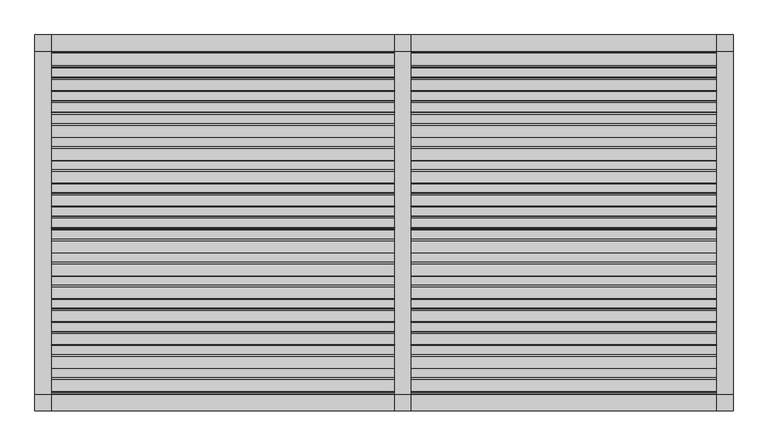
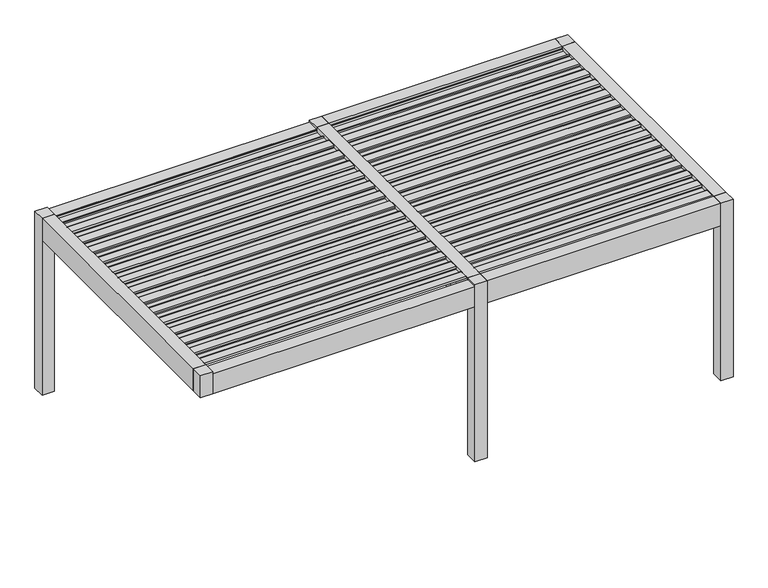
"""IFC4 building model written with IfcOpenShell, lengths in millimetres: proxy geometry, Renson_Amani_Patio_Cover : Renson_Amani_Patio_Cover."""

import ifcopenshell
import ifcopenshell.guid

model = None  # the IFC model being written
_history = None  # IfcOwnerHistory: only IFC2X3 demands one
_inside = {}  # id of a spatial element -> (the spatial element, [elements in it])
_under = {}  # id of a project, library or spatial element -> (it, [spatial elements below it])
_declared = {}  # id of a project -> (the project, [libraries it declares])
_typed = {}  # id of a type object -> (the type object, [elements of that type])
_made_of = {}  # id of a material, layer set ... -> (it, [elements and type objects made of it])


def new_model(schema):
    """Start an empty IFC model of exactly this schema.

    Asked for "IFC4X3", IfcOpenShell would pick the latest addendum, in which some entities
    have other attributes; the version numbers below select the first issue.
    IFC2X3 requires an IfcOwnerHistory on every rooted entity: one is made here for all.
    """
    global model, _history
    if schema == "IFC4X3":
        model = ifcopenshell.file(schema_version=(4, 3, 0, 0))
    else:
        model = ifcopenshell.file(schema=schema)
    _inside.clear()
    _under.clear()
    _declared.clear()
    _typed.clear()
    _made_of.clear()
    _history = None
    if model.schema == "IFC2X3":
        org = make("IfcOrganization", Name="unknown")
        user = make(
            "IfcPersonAndOrganization",
            ThePerson=make("IfcPerson", FamilyName="unknown"),
            TheOrganization=org,
        )
        app = make(
            "IfcApplication",
            ApplicationDeveloper=org,
            Version="unknown",
            ApplicationFullName="unknown",
            ApplicationIdentifier="unknown",
        )
        _history = make(
            "IfcOwnerHistory",
            OwningUser=user,
            OwningApplication=app,
            ChangeAction="ADDED",
            CreationDate=0,
        )
    return model


def make(cls, **values):
    """One entity of the class cls with the attributes given. An attribute that is None is left unset."""
    return model.create_entity(
        cls, **{name: value for name, value in values.items() if value is not None}
    )


def rooted(cls, **values):
    """An entity with a GlobalId (a new one), such as an element, a storey or a relation."""
    return make(cls, GlobalId=ifcopenshell.guid.new(), OwnerHistory=_history, **values)


def si_unit(unit_type, name, prefix=None):
    """IfcSIUnit, for example si_unit("LENGTHUNIT", "METRE", prefix="MILLI")."""
    return make("IfcSIUnit", UnitType=unit_type, Prefix=prefix, Name=name)


def assignment(units):
    """IfcUnitAssignment: the units of a project."""
    return None if units is None else make("IfcUnitAssignment", Units=units)


def point(xyz):
    """IfcCartesianPoint."""
    return None if xyz is None else make("IfcCartesianPoint", Coordinates=xyz)


def direction(xyz):
    """IfcDirection."""
    return None if xyz is None else make("IfcDirection", DirectionRatios=xyz)


def frame(location, z_axis=None, x_axis=None):
    """IfcAxis2Placement3D, a coordinate frame: its origin and axes. An axis left out is left unset."""
    return make(
        "IfcAxis2Placement3D",
        Location=point(location),
        Axis=direction(z_axis),
        RefDirection=direction(x_axis),
    )


def frame_2d(location, x_axis=None):
    """IfcAxis2Placement2D, a coordinate frame in the plane: its origin and x axis."""
    return make(
        "IfcAxis2Placement2D", Location=point(location), RefDirection=direction(x_axis)
    )


def origin():
    """The frame at (0, 0, 0) with its axes left unset."""
    return frame((0.0, 0.0, 0.0))


def origin_with_axes():
    """The frame at (0, 0, 0) with the z axis (0, 0, 1) and the x axis (1, 0, 0) written out."""
    return frame((0.0, 0.0, 0.0), z_axis=(0.0, 0.0, 1.0), x_axis=(1.0, 0.0, 0.0))


def place(relative_to, where):
    """IfcLocalPlacement: puts the frame where relative to a parent placement (None: the world)."""
    return make(
        "IfcLocalPlacement", PlacementRelTo=relative_to, RelativePlacement=where
    )


def context(
    kind, dimensions, precision=None, world=None, true_north=None, identifier=None
):
    """IfcGeometricRepresentationContext, for example the 3D "Model" context."""
    return make(
        "IfcGeometricRepresentationContext",
        ContextIdentifier=identifier,
        ContextType=kind,
        CoordinateSpaceDimension=dimensions,
        Precision=precision,
        WorldCoordinateSystem=world,
        TrueNorth=true_north,
    )


def project(units=None, contexts=None):
    """IfcProject with its units and contexts."""
    return rooted(
        "IfcProject",
        Name="project",
        RepresentationContexts=contexts,
        UnitsInContext=assignment(units),
    )


def spatial(cls, under=None, at=None, **own):
    """A site, building, storey or space (cls), placed at a placement, below another one or the project."""
    s = rooted(cls, ObjectPlacement=at, **own)
    if under is not None:
        _under.setdefault(under.id(), (under, []))[1].append(s)
    return s


def polyline(points):
    """IfcPolyline through the points."""
    return make("IfcPolyline", Points=[point(p) for p in points])


def circle_curve(where, radius):
    """IfcCircle in the frame where."""
    return make("IfcCircle", Position=where, Radius=radius)


def trimmed(basis, trim1, trim2, sense, master):
    """IfcTrimmedCurve: the piece of a basis curve between two trims."""
    return make(
        "IfcTrimmedCurve",
        BasisCurve=basis,
        Trim1=trim1,
        Trim2=trim2,
        SenseAgreement=sense,
        MasterRepresentation=master,
    )


def segment(curve, same_sense, transition):
    """IfcCompositeCurveSegment."""
    return make(
        "IfcCompositeCurveSegment",
        Transition=transition,
        SameSense=same_sense,
        ParentCurve=curve,
    )


def composite_curve(segments, self_intersect=None):
    """IfcCompositeCurve: segments joined end to end."""
    return make("IfcCompositeCurve", Segments=segments, SelfIntersect=self_intersect)


def outline(outer, holes=None, kind="AREA"):
    """IfcArbitraryClosedProfileDef: a profile drawn as a closed curve; with holes, ...WithVoids."""
    if holes is None:
        return make("IfcArbitraryClosedProfileDef", ProfileType=kind, OuterCurve=outer)
    return make(
        "IfcArbitraryProfileDefWithVoids",
        ProfileType=kind,
        OuterCurve=outer,
        InnerCurves=holes,
    )


def extrude(swept, where, along, depth):
    """IfcExtrudedAreaSolid: the profile swept, set in the frame where, extruded along a direction by depth."""
    return make(
        "IfcExtrudedAreaSolid",
        SweptArea=swept,
        Position=where,
        ExtrudedDirection=direction(along),
        Depth=depth,
    )


def shape(context_of_items, identifier, shape_type, items):
    """IfcShapeRepresentation: the items that make up one representation, for example the "Body"."""
    return make(
        "IfcShapeRepresentation",
        ContextOfItems=context_of_items,
        RepresentationIdentifier=identifier,
        RepresentationType=shape_type,
        Items=items,
    )


def source(mapping_origin, context_of_items, identifier, shape_type, items):
    """IfcRepresentationMap: a shape defined once, which mapped items show again and again."""
    return make(
        "IfcRepresentationMap",
        MappingOrigin=mapping_origin,
        MappedRepresentation=shape(context_of_items, identifier, shape_type, items),
    )


def transform(
    local_origin,
    x_axis=None,
    y_axis=None,
    z_axis=None,
    scale=None,
    scale2=None,
    scale3=None,
    uniform=True,
):
    """IfcCartesianTransformationOperator3D, or its non-uniform kind. x_axis, y_axis, z_axis: its Axis1, 2, 3."""
    if uniform:
        return make(
            "IfcCartesianTransformationOperator3D",
            Axis1=direction(x_axis),
            Axis2=direction(y_axis),
            LocalOrigin=point(local_origin),
            Scale=scale,
            Axis3=direction(z_axis),
        )
    return make(
        "IfcCartesianTransformationOperator3DnonUniform",
        Axis1=direction(x_axis),
        Axis2=direction(y_axis),
        LocalOrigin=point(local_origin),
        Scale=scale,
        Axis3=direction(z_axis),
        Scale2=scale2,
        Scale3=scale3,
    )


def mapped(mapping_source, mapping_target):
    """IfcMappedItem: shows the shape of a source again, moved by a transform."""
    return make(
        "IfcMappedItem", MappingSource=mapping_source, MappingTarget=mapping_target
    )


def made_of(thing, what):
    """Note that an element or type object is made of a material, layer set ...; save() writes the relation."""
    if what is not None:
        _made_of.setdefault(what.id(), (what, []))[1].append(thing)
    return thing


def element(
    cls,
    number,
    at=None,
    inside=None,
    cuts=None,
    type_object=None,
    material=None,
    context=None,
    identifier="Body",
    shape_type=None,
    held_by="IfcProductDefinitionShape",
    body=None,
    shapes=None,
    **own,
):
    """One element of the class cls, such as IfcWall. Its Tag is "e" and its number.

    at: its placement. inside: the storey or other place that contains it. cuts: it is an
    opening in that element (IfcRelVoidsElement). A single representation is given by context,
    identifier, shape_type and body (its items); several are given by shapes. held_by: the class
    of the entity that holds the representations. save() writes the other relations.
    """
    e = rooted(cls, Tag="e%d" % number, ObjectPlacement=at, **own)
    if body is not None:
        shapes = [shape(context, identifier, shape_type, body)]
    if shapes is not None:
        e.Representation = make(held_by, Representations=shapes)
    if inside is not None:
        _inside.setdefault(inside.id(), (inside, []))[1].append(e)
    if cuts is not None:
        rooted(
            "IfcRelVoidsElement", RelatingBuildingElement=cuts, RelatedOpeningElement=e
        )
    if type_object is not None:
        _typed.setdefault(type_object.id(), (type_object, []))[1].append(e)
    return made_of(e, material)


def aggregate(whole, parts):
    """IfcRelAggregates: a whole, such as a stair, and the parts it consists of."""
    return rooted("IfcRelAggregates", RelatingObject=whole, RelatedObjects=parts)


def save(model, path):
    """Write the relations noted so far, then the file.

    IfcRelAggregates (storeys below a building ...), IfcRelContainedInSpatialStructure (elements
    in a storey), IfcRelDefinesByType, IfcRelAssociatesMaterial and IfcRelDeclares: one each for
    every whole, place, type object, material and project.
    """
    for whole, parts in _under.values():
        aggregate(whole, parts)
    for where, things in _inside.values():
        rooted(
            "IfcRelContainedInSpatialStructure",
            RelatedElements=things,
            RelatingStructure=where,
        )
    for kind, things in _typed.values():
        rooted("IfcRelDefinesByType", RelatedObjects=things, RelatingType=kind)
    for what, things in _made_of.values():
        rooted("IfcRelAssociatesMaterial", RelatedObjects=things, RelatingMaterial=what)
    for by, libraries in _declared.values():
        rooted("IfcRelDeclares", RelatingContext=by, RelatedDefinitions=libraries)
    model.write(path)


def generic_models_32e5b0d9(model_context):
    return source(origin(), model_context, "Body", "SweptSolid", [
        extrude(outline(composite_curve([segment(polyline([(-1323.7313417, 2233.35), (-1326.1514513, 2261.01198), (-1354.9867018, 2262.3970364), (-1351.5493707, 2281.8911096), (-1241.5522559, 2276.6075693)]), True, "CONTINUOUS"), segment(trimmed(circle_curve(frame_2d((-1242.2719278, 2261.6248435)), 15.0), [point((-1241.5522559, 2276.6075693))], [point((-1227.4998115, 2264.2295662))], False, "CARTESIAN"), True, "CONTINUOUS"), segment(polyline([(-1227.4998115, 2264.2295662), (-1224.1091202, 2245.0), (-1136.3733441, 2245.0), (-1133.3618867, 2262.0788237), (-1118.0849163, 2261.3450182), (-1115.6356695, 2233.35), (-1323.7313417, 2233.35)]), True, "CONTINUOUS")], self_intersect=False)), frame((1750.0, 0.0, 0.0), z_axis=(1.0, 0.0, 0.0), x_axis=(0.0, 1.0, 0.0)), (0.0, 0.0, 1.0), 2850.0),
        extrude(outline(composite_curve([segment(polyline([(-1108.7180435, 2233.35), (-1111.1381532, 2261.01198), (-1139.9734036, 2262.3970364), (-1136.5360725, 2281.8911096), (-1026.5389577, 2276.6075693)]), True, "CONTINUOUS"), segment(trimmed(circle_curve(frame_2d((-1027.2586296, 2261.6248435)), 15.0), [point((-1026.5389577, 2276.6075693))], [point((-1012.4865133, 2264.2295662))], False, "CARTESIAN"), True, "CONTINUOUS"), segment(polyline([(-1012.4865133, 2264.2295662), (-1009.095822, 2245.0), (-921.360046, 2245.0), (-918.3485885, 2262.0788237), (-903.0716181, 2261.3450182), (-900.6223713, 2233.35), (-1108.7180435, 2233.35)]), True, "CONTINUOUS")], self_intersect=False)), frame((1750.0, 0.0, 0.0), z_axis=(1.0, 0.0, 0.0), x_axis=(0.0, 1.0, 0.0)), (0.0, 0.0, 1.0), 2850.0),
        extrude(outline(composite_curve([segment(polyline([(-893.7047453, 2233.35), (-896.124855, 2261.01198), (-924.9601054, 2262.3970364), (-921.5227743, 2281.8911096), (-811.5256595, 2276.6075693)]), True, "CONTINUOUS"), segment(trimmed(circle_curve(frame_2d((-812.2453314, 2261.6248435)), 15.0), [point((-811.5256595, 2276.6075693))], [point((-797.4732151, 2264.2295662))], False, "CARTESIAN"), True, "CONTINUOUS"), segment(polyline([(-797.4732151, 2264.2295662), (-794.0825238, 2245.0), (-706.3467478, 2245.0), (-703.3352903, 2262.0788237), (-688.0583199, 2261.3450182), (-685.6090731, 2233.35), (-893.7047453, 2233.35)]), True, "CONTINUOUS")], self_intersect=False)), frame((1750.0, 0.0, 0.0), z_axis=(1.0, 0.0, 0.0), x_axis=(0.0, 1.0, 0.0)), (0.0, 0.0, 1.0), 2850.0),
        extrude(outline(composite_curve([segment(polyline([(-678.6914471, 2233.35), (-681.1115568, 2261.01198), (-709.9468072, 2262.3970364), (-706.5094762, 2281.8911096), (-596.5123613, 2276.6075693)]), True, "CONTINUOUS"), segment(trimmed(circle_curve(frame_2d((-597.2320332, 2261.6248435)), 15.0), [point((-596.5123613, 2276.6075693))], [point((-582.4599169, 2264.2295662))], False, "CARTESIAN"), True, "CONTINUOUS"), segment(polyline([(-582.4599169, 2264.2295662), (-579.0692256, 2245.0), (-491.3334496, 2245.0), (-488.3219922, 2262.0788237), (-473.0450217, 2261.3450182), (-470.595775, 2233.35), (-678.6914471, 2233.35)]), True, "CONTINUOUS")], self_intersect=False)), frame((1750.0, 0.0, 0.0), z_axis=(1.0, 0.0, 0.0), x_axis=(0.0, 1.0, 0.0)), (0.0, 0.0, 1.0), 2850.0),
        extrude(outline(composite_curve([segment(polyline([(-463.6781489, 2233.35), (-466.0982586, 2261.01198), (-494.933509, 2262.3970364), (-491.496178, 2281.8911096), (-381.4990631, 2276.6075693)]), True, "CONTINUOUS"), segment(trimmed(circle_curve(frame_2d((-382.218735, 2261.6248435)), 15.0), [point((-381.4990631, 2276.6075693))], [point((-367.4466187, 2264.2295662))], False, "CARTESIAN"), True, "CONTINUOUS"), segment(polyline([(-367.4466187, 2264.2295662), (-364.0559274, 2245.0), (-276.3201514, 2245.0), (-273.308694, 2262.0788237), (-258.0317235, 2261.3450182), (-255.5824768, 2233.35), (-463.6781489, 2233.35)]), True, "CONTINUOUS")], self_intersect=False)), frame((1750.0, 0.0, 0.0), z_axis=(1.0, 0.0, 0.0), x_axis=(0.0, 1.0, 0.0)), (0.0, 0.0, 1.0), 2850.0),
        extrude(outline(composite_curve([segment(polyline([(-248.6648507, 2233.35), (-251.0849604, 2261.01198), (-279.9202108, 2262.3970364), (-276.4828798, 2281.8911096), (-166.4857649, 2276.6075693)]), True, "CONTINUOUS"), segment(trimmed(circle_curve(frame_2d((-167.2054368, 2261.6248435)), 15.0), [point((-166.4857649, 2276.6075693))], [point((-152.4333206, 2264.2295662))], False, "CARTESIAN"), True, "CONTINUOUS"), segment(polyline([(-152.4333206, 2264.2295662), (-149.0426292, 2245.0), (-61.3068532, 2245.0), (-58.2953958, 2262.0788237), (-43.0184253, 2261.3450182), (-40.5691786, 2233.35), (-248.6648507, 2233.35)]), True, "CONTINUOUS")], self_intersect=False)), frame((1750.0, 0.0, 0.0), z_axis=(1.0, 0.0, 0.0), x_axis=(0.0, 1.0, 0.0)), (0.0, 0.0, 1.0), 2850.0),
        extrude(outline(composite_curve([segment(polyline([(-33.6515525, 2233.35), (-36.0716622, 2261.01198), (-64.9069127, 2262.3970364), (-61.4695816, 2281.8911096), (48.5275333, 2276.6075693)]), True, "CONTINUOUS"), segment(trimmed(circle_curve(frame_2d((47.8078613, 2261.6248435)), 15.0), [point((48.5275333, 2276.6075693))], [point((62.5799776, 2264.2295662))], False, "CARTESIAN"), True, "CONTINUOUS"), segment(polyline([(62.5799776, 2264.2295662), (65.970669, 2245.0), (153.706445, 2245.0), (156.7179024, 2262.0788237), (171.9948729, 2261.3450182), (174.4441196, 2233.35), (-33.6515525, 2233.35)]), True, "CONTINUOUS")], self_intersect=False)), frame((1750.0, 0.0, 0.0), z_axis=(1.0, 0.0, 0.0), x_axis=(0.0, 1.0, 0.0)), (0.0, 0.0, 1.0), 2850.0),
        extrude(outline(composite_curve([segment(polyline([(181.3617457, 2233.35), (178.941636, 2261.01198), (150.1063855, 2262.3970364), (153.5437166, 2281.8911096), (263.5408315, 2276.6075693)]), True, "CONTINUOUS"), segment(trimmed(circle_curve(frame_2d((262.8211595, 2261.6248435)), 15.0), [point((263.5408315, 2276.6075693))], [point((277.5932758, 2264.2295662))], False, "CARTESIAN"), True, "CONTINUOUS"), segment(polyline([(277.5932758, 2264.2295662), (280.9839672, 2245.0), (368.7197432, 2245.0), (371.7312006, 2262.0788237), (387.0081711, 2261.3450182), (389.4574178, 2233.35), (181.3617457, 2233.35)]), True, "CONTINUOUS")], self_intersect=False)), frame((1750.0, 0.0, 0.0), z_axis=(1.0, 0.0, 0.0), x_axis=(0.0, 1.0, 0.0)), (0.0, 0.0, 1.0), 2850.0),
        extrude(outline(composite_curve([segment(polyline([(396.3750439, 2233.35), (393.9549342, 2261.01198), (365.1196837, 2262.3970364), (368.5570148, 2281.8911096), (478.5541297, 2276.6075693)]), True, "CONTINUOUS"), segment(trimmed(circle_curve(frame_2d((477.8344577, 2261.6248435)), 15.0), [point((478.5541297, 2276.6075693))], [point((492.606574, 2264.2295662))], False, "CARTESIAN"), True, "CONTINUOUS"), segment(polyline([(492.606574, 2264.2295662), (495.9972654, 2245.0), (583.7330414, 2245.0), (586.7444988, 2262.0788237), (602.0214693, 2261.3450182), (604.470716, 2233.35), (396.3750439, 2233.35)]), True, "CONTINUOUS")], self_intersect=False)), frame((1750.0, 0.0, 0.0), z_axis=(1.0, 0.0, 0.0), x_axis=(0.0, 1.0, 0.0)), (0.0, 0.0, 1.0), 2850.0),
        extrude(outline(composite_curve([segment(polyline([(611.388342, 2233.35), (608.9682324, 2261.01198), (580.1329819, 2262.3970364), (583.570313, 2281.8911096), (693.5674279, 2276.6075693)]), True, "CONTINUOUS"), segment(trimmed(circle_curve(frame_2d((692.8477559, 2261.6248435)), 15.0), [point((693.5674279, 2276.6075693))], [point((707.6198722, 2264.2295662))], False, "CARTESIAN"), True, "CONTINUOUS"), segment(polyline([(707.6198722, 2264.2295662), (711.0105636, 2245.0), (798.7463396, 2245.0), (801.757797, 2262.0788237), (817.0347675, 2261.3450182), (819.4840142, 2233.35), (611.388342, 2233.35)]), True, "CONTINUOUS")], self_intersect=False)), frame((1750.0, 0.0, 0.0), z_axis=(1.0, 0.0, 0.0), x_axis=(0.0, 1.0, 0.0)), (0.0, 0.0, 1.0), 2850.0),
        extrude(outline(composite_curve([segment(polyline([(826.4016402, 2233.35), (823.9815306, 2261.01198), (795.1462801, 2262.3970364), (798.5836112, 2281.8911096), (908.580726, 2276.6075693)]), True, "CONTINUOUS"), segment(trimmed(circle_curve(frame_2d((907.8610541, 2261.6248435)), 15.0), [point((908.580726, 2276.6075693))], [point((922.6331704, 2264.2295662))], False, "CARTESIAN"), True, "CONTINUOUS"), segment(polyline([(922.6331704, 2264.2295662), (926.0238618, 2245.0), (1013.7596378, 2245.0), (1016.7710952, 2262.0788237), (1032.0480657, 2261.3450182), (1034.4973124, 2233.35), (826.4016402, 2233.35)]), True, "CONTINUOUS")], self_intersect=False)), frame((1750.0, 0.0, 0.0), z_axis=(1.0, 0.0, 0.0), x_axis=(0.0, 1.0, 0.0)), (0.0, 0.0, 1.0), 2850.0),
        extrude(outline(composite_curve([segment(polyline([(1041.4149384, 2233.35), (1038.9948288, 2261.01198), (1010.1595783, 2262.3970364), (1013.5969094, 2281.8911096), (1123.5940242, 2276.6075693)]), True, "CONTINUOUS"), segment(trimmed(circle_curve(frame_2d((1122.8743523, 2261.6248435)), 15.0), [point((1123.5940242, 2276.6075693))], [point((1137.6464686, 2264.2295662))], False, "CARTESIAN"), True, "CONTINUOUS"), segment(polyline([(1137.6464686, 2264.2295662), (1141.0371599, 2245.0), (1228.772936, 2245.0), (1231.7843934, 2262.0788237), (1247.0613639, 2261.3450182), (1249.5106106, 2233.35), (1041.4149384, 2233.35)]), True, "CONTINUOUS")], self_intersect=False)), frame((1750.0, 0.0, 0.0), z_axis=(1.0, 0.0, 0.0), x_axis=(0.0, 1.0, 0.0)), (0.0, 0.0, 1.0), 2850.0),
        extrude(outline(composite_curve([segment(polyline([(-1538.7446399, 2233.35), (-1541.1647495, 2261.01198), (-1570.0, 2262.3970364), (-1566.5626689, 2281.8911096), (-1456.5655541, 2276.6075693)]), True, "CONTINUOUS"), segment(trimmed(circle_curve(frame_2d((-1457.285226, 2261.6248435)), 15.0), [point((-1456.5655541, 2276.6075693))], [point((-1442.5131097, 2264.2295662))], False, "CARTESIAN"), True, "CONTINUOUS"), segment(polyline([(-1442.5131097, 2264.2295662), (-1439.1224184, 2245.0), (-1351.3866423, 2245.0), (-1348.3751849, 2262.0788237), (-1333.0982144, 2261.3450182), (-1330.6489677, 2233.35), (-1538.7446399, 2233.35)]), True, "CONTINUOUS")], self_intersect=False)), frame((1750.0, 0.0, 0.0), z_axis=(1.0, 0.0, 0.0), x_axis=(0.0, 1.0, 0.0)), (0.0, 0.0, 1.0), 2850.0),
        extrude(outline(composite_curve([segment(polyline([(1256.4282366, 2233.35), (1254.008127, 2261.01198), (1225.1728765, 2262.3970364), (1228.6102076, 2281.8911096), (1338.6073224, 2276.6075693)]), True, "CONTINUOUS"), segment(trimmed(circle_curve(frame_2d((1337.8876505, 2261.6248435)), 15.0), [point((1338.6073224, 2276.6075693))], [point((1352.6597668, 2264.2295662))], False, "CARTESIAN"), True, "CONTINUOUS"), segment(polyline([(1352.6597668, 2264.2295662), (1356.0504581, 2245.0), (1443.7862342, 2245.0), (1446.7976916, 2262.0788237), (1462.0746621, 2261.3450182), (1464.5239088, 2233.35), (1256.4282366, 2233.35)]), True, "CONTINUOUS")], self_intersect=False)), frame((1750.0, 0.0, 0.0), z_axis=(1.0, 0.0, 0.0), x_axis=(0.0, 1.0, 0.0)), (0.0, 0.0, 1.0), 2850.0),
        extrude(outline(composite_curve([segment(polyline([(-1323.7313417, 2233.35), (-1326.1514513, 2261.01198), (-1354.9867018, 2262.3970364), (-1351.5493707, 2281.8911096), (-1241.5522559, 2276.6075693)]), True, "CONTINUOUS"), segment(trimmed(circle_curve(frame_2d((-1242.2719278, 2261.6248435)), 15.0), [point((-1241.5522559, 2276.6075693))], [point((-1227.4998115, 2264.2295662))], False, "CARTESIAN"), True, "CONTINUOUS"), segment(polyline([(-1227.4998115, 2264.2295662), (-1224.1091202, 2245.0), (-1136.3733441, 2245.0), (-1133.3618867, 2262.0788237), (-1118.0849163, 2261.3450182), (-1115.6356695, 2233.35), (-1323.7313417, 2233.35)]), True, "CONTINUOUS")], self_intersect=False)), frame((-1600.0, 0.0, 0.0), z_axis=(1.0, 0.0, 0.0), x_axis=(0.0, 1.0, 0.0)), (0.0, 0.0, 1.0), 3200.0),
        extrude(outline(composite_curve([segment(polyline([(-1108.7180435, 2233.35), (-1111.1381532, 2261.01198), (-1139.9734036, 2262.3970364), (-1136.5360725, 2281.8911096), (-1026.5389577, 2276.6075693)]), True, "CONTINUOUS"), segment(trimmed(circle_curve(frame_2d((-1027.2586296, 2261.6248435)), 15.0), [point((-1026.5389577, 2276.6075693))], [point((-1012.4865133, 2264.2295662))], False, "CARTESIAN"), True, "CONTINUOUS"), segment(polyline([(-1012.4865133, 2264.2295662), (-1009.095822, 2245.0), (-921.360046, 2245.0), (-918.3485885, 2262.0788237), (-903.0716181, 2261.3450182), (-900.6223713, 2233.35), (-1108.7180435, 2233.35)]), True, "CONTINUOUS")], self_intersect=False)), frame((-1600.0, 0.0, 0.0), z_axis=(1.0, 0.0, 0.0), x_axis=(0.0, 1.0, 0.0)), (0.0, 0.0, 1.0), 3200.0),
        extrude(outline(composite_curve([segment(polyline([(-893.7047453, 2233.35), (-896.124855, 2261.01198), (-924.9601054, 2262.3970364), (-921.5227743, 2281.8911096), (-811.5256595, 2276.6075693)]), True, "CONTINUOUS"), segment(trimmed(circle_curve(frame_2d((-812.2453314, 2261.6248435)), 15.0), [point((-811.5256595, 2276.6075693))], [point((-797.4732151, 2264.2295662))], False, "CARTESIAN"), True, "CONTINUOUS"), segment(polyline([(-797.4732151, 2264.2295662), (-794.0825238, 2245.0), (-706.3467478, 2245.0), (-703.3352903, 2262.0788237), (-688.0583199, 2261.3450182), (-685.6090731, 2233.35), (-893.7047453, 2233.35)]), True, "CONTINUOUS")], self_intersect=False)), frame((-1600.0, 0.0, 0.0), z_axis=(1.0, 0.0, 0.0), x_axis=(0.0, 1.0, 0.0)), (0.0, 0.0, 1.0), 3200.0),
        extrude(outline(composite_curve([segment(polyline([(-678.6914471, 2233.35), (-681.1115568, 2261.01198), (-709.9468072, 2262.3970364), (-706.5094762, 2281.8911096), (-596.5123613, 2276.6075693)]), True, "CONTINUOUS"), segment(trimmed(circle_curve(frame_2d((-597.2320332, 2261.6248435)), 15.0), [point((-596.5123613, 2276.6075693))], [point((-582.4599169, 2264.2295662))], False, "CARTESIAN"), True, "CONTINUOUS"), segment(polyline([(-582.4599169, 2264.2295662), (-579.0692256, 2245.0), (-491.3334496, 2245.0), (-488.3219922, 2262.0788237), (-473.0450217, 2261.3450182), (-470.595775, 2233.35), (-678.6914471, 2233.35)]), True, "CONTINUOUS")], self_intersect=False)), frame((-1600.0, 0.0, 0.0), z_axis=(1.0, 0.0, 0.0), x_axis=(0.0, 1.0, 0.0)), (0.0, 0.0, 1.0), 3200.0),
        extrude(outline(composite_curve([segment(polyline([(-463.6781489, 2233.35), (-466.0982586, 2261.01198), (-494.933509, 2262.3970364), (-491.496178, 2281.8911096), (-381.4990631, 2276.6075693)]), True, "CONTINUOUS"), segment(trimmed(circle_curve(frame_2d((-382.218735, 2261.6248435)), 15.0), [point((-381.4990631, 2276.6075693))], [point((-367.4466187, 2264.2295662))], False, "CARTESIAN"), True, "CONTINUOUS"), segment(polyline([(-367.4466187, 2264.2295662), (-364.0559274, 2245.0), (-276.3201514, 2245.0), (-273.308694, 2262.0788237), (-258.0317235, 2261.3450182), (-255.5824768, 2233.35), (-463.6781489, 2233.35)]), True, "CONTINUOUS")], self_intersect=False)), frame((-1600.0, 0.0, 0.0), z_axis=(1.0, 0.0, 0.0), x_axis=(0.0, 1.0, 0.0)), (0.0, 0.0, 1.0), 3200.0),
        extrude(outline(composite_curve([segment(polyline([(-248.6648507, 2233.35), (-251.0849604, 2261.01198), (-279.9202108, 2262.3970364), (-276.4828798, 2281.8911096), (-166.4857649, 2276.6075693)]), True, "CONTINUOUS"), segment(trimmed(circle_curve(frame_2d((-167.2054368, 2261.6248435)), 15.0), [point((-166.4857649, 2276.6075693))], [point((-152.4333206, 2264.2295662))], False, "CARTESIAN"), True, "CONTINUOUS"), segment(polyline([(-152.4333206, 2264.2295662), (-149.0426292, 2245.0), (-61.3068532, 2245.0), (-58.2953958, 2262.0788237), (-43.0184253, 2261.3450182), (-40.5691786, 2233.35), (-248.6648507, 2233.35)]), True, "CONTINUOUS")], self_intersect=False)), frame((-1600.0, 0.0, 0.0), z_axis=(1.0, 0.0, 0.0), x_axis=(0.0, 1.0, 0.0)), (0.0, 0.0, 1.0), 3200.0),
        extrude(outline(composite_curve([segment(polyline([(-33.6515525, 2233.35), (-36.0716622, 2261.01198), (-64.9069127, 2262.3970364), (-61.4695816, 2281.8911096), (48.5275333, 2276.6075693)]), True, "CONTINUOUS"), segment(trimmed(circle_curve(frame_2d((47.8078613, 2261.6248435)), 15.0), [point((48.5275333, 2276.6075693))], [point((62.5799776, 2264.2295662))], False, "CARTESIAN"), True, "CONTINUOUS"), segment(polyline([(62.5799776, 2264.2295662), (65.970669, 2245.0), (153.706445, 2245.0), (156.7179024, 2262.0788237), (171.9948729, 2261.3450182), (174.4441196, 2233.35), (-33.6515525, 2233.35)]), True, "CONTINUOUS")], self_intersect=False)), frame((-1600.0, 0.0, 0.0), z_axis=(1.0, 0.0, 0.0), x_axis=(0.0, 1.0, 0.0)), (0.0, 0.0, 1.0), 3200.0),
        extrude(outline(composite_curve([segment(polyline([(181.3617457, 2233.35), (178.941636, 2261.01198), (150.1063855, 2262.3970364), (153.5437166, 2281.8911096), (263.5408315, 2276.6075693)]), True, "CONTINUOUS"), segment(trimmed(circle_curve(frame_2d((262.8211595, 2261.6248435)), 15.0), [point((263.5408315, 2276.6075693))], [point((277.5932758, 2264.2295662))], False, "CARTESIAN"), True, "CONTINUOUS"), segment(polyline([(277.5932758, 2264.2295662), (280.9839672, 2245.0), (368.7197432, 2245.0), (371.7312006, 2262.0788237), (387.0081711, 2261.3450182), (389.4574178, 2233.35), (181.3617457, 2233.35)]), True, "CONTINUOUS")], self_intersect=False)), frame((-1600.0, 0.0, 0.0), z_axis=(1.0, 0.0, 0.0), x_axis=(0.0, 1.0, 0.0)), (0.0, 0.0, 1.0), 3200.0),
        extrude(outline(composite_curve([segment(polyline([(396.3750439, 2233.35), (393.9549342, 2261.01198), (365.1196837, 2262.3970364), (368.5570148, 2281.8911096), (478.5541297, 2276.6075693)]), True, "CONTINUOUS"), segment(trimmed(circle_curve(frame_2d((477.8344577, 2261.6248435)), 15.0), [point((478.5541297, 2276.6075693))], [point((492.606574, 2264.2295662))], False, "CARTESIAN"), True, "CONTINUOUS"), segment(polyline([(492.606574, 2264.2295662), (495.9972654, 2245.0), (583.7330414, 2245.0), (586.7444988, 2262.0788237), (602.0214693, 2261.3450182), (604.470716, 2233.35), (396.3750439, 2233.35)]), True, "CONTINUOUS")], self_intersect=False)), frame((-1600.0, 0.0, 0.0), z_axis=(1.0, 0.0, 0.0), x_axis=(0.0, 1.0, 0.0)), (0.0, 0.0, 1.0), 3200.0),
        extrude(outline(composite_curve([segment(polyline([(611.388342, 2233.35), (608.9682324, 2261.01198), (580.1329819, 2262.3970364), (583.570313, 2281.8911096), (693.5674279, 2276.6075693)]), True, "CONTINUOUS"), segment(trimmed(circle_curve(frame_2d((692.8477559, 2261.6248435)), 15.0), [point((693.5674279, 2276.6075693))], [point((707.6198722, 2264.2295662))], False, "CARTESIAN"), True, "CONTINUOUS"), segment(polyline([(707.6198722, 2264.2295662), (711.0105636, 2245.0), (798.7463396, 2245.0), (801.757797, 2262.0788237), (817.0347675, 2261.3450182), (819.4840142, 2233.35), (611.388342, 2233.35)]), True, "CONTINUOUS")], self_intersect=False)), frame((-1600.0, 0.0, 0.0), z_axis=(1.0, 0.0, 0.0), x_axis=(0.0, 1.0, 0.0)), (0.0, 0.0, 1.0), 3200.0),
        extrude(outline(composite_curve([segment(polyline([(826.4016402, 2233.35), (823.9815306, 2261.01198), (795.1462801, 2262.3970364), (798.5836112, 2281.8911096), (908.580726, 2276.6075693)]), True, "CONTINUOUS"), segment(trimmed(circle_curve(frame_2d((907.8610541, 2261.6248435)), 15.0), [point((908.580726, 2276.6075693))], [point((922.6331704, 2264.2295662))], False, "CARTESIAN"), True, "CONTINUOUS"), segment(polyline([(922.6331704, 2264.2295662), (926.0238618, 2245.0), (1013.7596378, 2245.0), (1016.7710952, 2262.0788237), (1032.0480657, 2261.3450182), (1034.4973124, 2233.35), (826.4016402, 2233.35)]), True, "CONTINUOUS")], self_intersect=False)), frame((-1600.0, 0.0, 0.0), z_axis=(1.0, 0.0, 0.0), x_axis=(0.0, 1.0, 0.0)), (0.0, 0.0, 1.0), 3200.0),
        extrude(outline(composite_curve([segment(polyline([(1041.4149384, 2233.35), (1038.9948288, 2261.01198), (1010.1595783, 2262.3970364), (1013.5969094, 2281.8911096), (1123.5940242, 2276.6075693)]), True, "CONTINUOUS"), segment(trimmed(circle_curve(frame_2d((1122.8743523, 2261.6248435)), 15.0), [point((1123.5940242, 2276.6075693))], [point((1137.6464686, 2264.2295662))], False, "CARTESIAN"), True, "CONTINUOUS"), segment(polyline([(1137.6464686, 2264.2295662), (1141.0371599, 2245.0), (1228.772936, 2245.0), (1231.7843934, 2262.0788237), (1247.0613639, 2261.3450182), (1249.5106106, 2233.35), (1041.4149384, 2233.35)]), True, "CONTINUOUS")], self_intersect=False)), frame((-1600.0, 0.0, 0.0), z_axis=(1.0, 0.0, 0.0), x_axis=(0.0, 1.0, 0.0)), (0.0, 0.0, 1.0), 3200.0),
        extrude(outline(composite_curve([segment(polyline([(-1538.7446399, 2233.35), (-1541.1647495, 2261.01198), (-1570.0, 2262.3970364), (-1566.5626689, 2281.8911096), (-1456.5655541, 2276.6075693)]), True, "CONTINUOUS"), segment(trimmed(circle_curve(frame_2d((-1457.285226, 2261.6248435)), 15.0), [point((-1456.5655541, 2276.6075693))], [point((-1442.5131097, 2264.2295662))], False, "CARTESIAN"), True, "CONTINUOUS"), segment(polyline([(-1442.5131097, 2264.2295662), (-1439.1224184, 2245.0), (-1351.3866423, 2245.0), (-1348.3751849, 2262.0788237), (-1333.0982144, 2261.3450182), (-1330.6489677, 2233.35), (-1538.7446399, 2233.35)]), True, "CONTINUOUS")], self_intersect=False)), frame((-1600.0, 0.0, 0.0), z_axis=(1.0, 0.0, 0.0), x_axis=(0.0, 1.0, 0.0)), (0.0, 0.0, 1.0), 3200.0),
        extrude(outline(composite_curve([segment(polyline([(1256.4282366, 2233.35), (1254.008127, 2261.01198), (1225.1728765, 2262.3970364), (1228.6102076, 2281.8911096), (1338.6073224, 2276.6075693)]), True, "CONTINUOUS"), segment(trimmed(circle_curve(frame_2d((1337.8876505, 2261.6248435)), 15.0), [point((1338.6073224, 2276.6075693))], [point((1352.6597668, 2264.2295662))], False, "CARTESIAN"), True, "CONTINUOUS"), segment(polyline([(1352.6597668, 2264.2295662), (1356.0504581, 2245.0), (1443.7862342, 2245.0), (1446.7976916, 2262.0788237), (1462.0746621, 2261.3450182), (1464.5239088, 2233.35), (1256.4282366, 2233.35)]), True, "CONTINUOUS")], self_intersect=False)), frame((-1600.0, 0.0, 0.0), z_axis=(1.0, 0.0, 0.0), x_axis=(0.0, 1.0, 0.0)), (0.0, 0.0, 1.0), 3200.0),
        extrude(outline(polyline([(4750.0, 1750.0), (4750.0, 1600.0), (4600.0, 1600.0), (4600.0, 1750.0), (4750.0, 1750.0)])), origin_with_axes(), (0.0, 0.0, 1.0), 2285.0),
        extrude(outline(polyline([(-1600.0, -1750.0), (-1750.0, -1750.0), (-1750.0, -1600.0), (-1600.0, -1600.0), (-1600.0, -1750.0)])), frame((0.0, 0.0, 2000.0), z_axis=(0.0, 0.0, 1.0), x_axis=(1.0, 0.0, 0.0)), (0.0, 0.0, 1.0), 285.0),
        extrude(outline(polyline([(4750.0, -1600.0), (4750.0, -1750.0), (4600.0, -1750.0), (4600.0, -1600.0), (4750.0, -1600.0)])), origin_with_axes(), (0.0, 0.0, 1.0), 2285.0),
        extrude(outline(polyline([(1750.0, -1600.0), (1750.0, -1750.0), (1600.0, -1750.0), (1600.0, -1600.0), (1750.0, -1600.0)])), origin_with_axes(), (0.0, 0.0, 1.0), 2285.0),
        extrude(outline(polyline([(1750.0, 1750.0), (1750.0, 1600.0), (1600.0, 1600.0), (1600.0, 1750.0), (1750.0, 1750.0)])), origin_with_axes(), (0.0, 0.0, 1.0), 2285.0),
        extrude(outline(polyline([(-1600.0, 1600.0), (-1750.0, 1600.0), (-1750.0, 1750.0), (-1600.0, 1750.0), (-1600.0, 1600.0)])), origin_with_axes(), (0.0, 0.0, 1.0), 2285.0),
        extrude(outline(polyline([(1600.0, 2216.6559373), (1470.0, 2216.6559373), (1466.2487113, 2230.6555802), (1579.5940945, 2230.6555802), (1595.0, 2246.400763), (1595.0, 2254.2449277), (1600.0, 2254.6823598), (1600.0, 2216.6559373)])), frame((1750.0, 0.0, 0.0), z_axis=(1.0, 0.0, 0.0), x_axis=(0.0, 1.0, 0.0)), (0.0, 0.0, 1.0), 2850.0),
        extrude(outline(polyline([(4600.0, 1750.0), (4600.0, 1600.0), (1750.0, 1600.0), (1750.0, 1750.0), (4600.0, 1750.0)])), frame((0.0, 0.0, 2000.0), z_axis=(0.0, 0.0, 1.0), x_axis=(1.0, 0.0, 0.0)), (0.0, 0.0, 1.0), 285.0),
        extrude(outline(polyline([(-1600.0, 2000.0), (-1750.0, 2000.0), (-1750.0, 2285.0), (-1600.0, 2285.0), (-1600.0, 2254.6823598), (-1595.0, 2254.2449277), (-1595.0, 2246.400763), (-1579.2544156, 2230.6555802), (-1569.9090324, 2230.6555802), (-1573.6603211, 2216.6559373), (-1600.0, 2216.6559373), (-1600.0, 2000.0)])), frame((1750.0, 0.0, 0.0), z_axis=(1.0, 0.0, 0.0), x_axis=(0.0, 1.0, 0.0)), (0.0, 0.0, 1.0), 2850.0),
        extrude(outline(polyline([(2285.0, 1600.0), (2072.0, 1600.0), (2072.0, 1530.0000001), (2000.0, 1530.0000001), (2000.0, 1819.9999999), (2072.0, 1819.9999999), (2072.0, 1750.0), (2285.0, 1750.0), (2285.0, 1600.0)])), frame((0.0, -1600.0, 0.0), z_axis=(0.0, 1.0, 0.0), x_axis=(0.0, 0.0, 1.0)), (0.0, 0.0, 1.0), 3200.0),
        extrude(outline(polyline([(2285.0, 4600.0), (2072.0, 4600.0), (2072.0, 4530.0000001), (2000.0, 4530.0000001), (2000.0, 4750.0), (2285.0, 4750.0), (2285.0, 4600.0)])), frame((0.0, -1600.0, 0.0), z_axis=(0.0, 1.0, 0.0), x_axis=(0.0, 0.0, 1.0)), (0.0, 0.0, 1.0), 3200.0),
        extrude(outline(polyline([(1600.0, 2216.6559373), (1470.0, 2216.6559373), (1466.2487113, 2230.6555802), (1579.5940945, 2230.6555802), (1595.0, 2246.400763), (1595.0, 2254.2449277), (1600.0, 2254.6823598), (1600.0, 2216.6559373)])), frame((-1600.0, 0.0, 0.0), z_axis=(1.0, 0.0, 0.0), x_axis=(0.0, 1.0, 0.0)), (0.0, 0.0, 1.0), 3200.0),
        extrude(outline(polyline([(-1600.0, 2260.0), (-1600.0, 2229.6823598), (-1595.0, 2229.2449277), (-1595.0, 2221.400763), (-1579.2544156, 2205.6555802), (-1569.9090324, 2205.6555802), (-1573.6603211, 2191.6559373), (-1600.0, 2191.6559373), (-1600.0, 2000.0), (-1750.0, 2000.0), (-1750.0, 2260.0), (-1600.0, 2260.0)])), frame((-1600.0, 0.0, 0.0), z_axis=(1.0, 0.0, 0.0), x_axis=(0.0, 1.0, 0.0)), (0.0, 0.0, 1.0), 3200.0),
        extrude(outline(polyline([(1600.0, 1750.0), (1600.0, 1600.0), (-1600.0, 1600.0), (-1600.0, 1750.0), (1600.0, 1750.0)])), frame((0.0, 0.0, 2000.0), z_axis=(0.0, 0.0, 1.0), x_axis=(1.0, 0.0, 0.0)), (0.0, 0.0, 1.0), 260.0),
        extrude(outline(polyline([(2285.0, -1600.0), (2285.0, -1750.0), (2000.0, -1750.0), (2000.0, -1530.0000001), (2072.0, -1530.0000001), (2072.0, -1600.0), (2285.0, -1600.0)])), frame((0.0, -1600.0, 0.0), z_axis=(0.0, 1.0, 0.0), x_axis=(0.0, 0.0, 1.0)), (0.0, 0.0, 1.0), 3200.0),
        extrude(outline(polyline([(2000.0, 1750.0), (2285.0, 1750.0), (2285.0, 1600.0), (2072.0, 1600.0), (2072.0, 1530.0000001), (2000.0, 1530.0000001), (2000.0, 1750.0)])), frame((0.0, -1600.0, 0.0), z_axis=(0.0, 1.0, 0.0), x_axis=(0.0, 0.0, 1.0)), (0.0, 0.0, 1.0), 3200.0),
    ])


if __name__ == "__main__":
    model = new_model("IFC4")
    model_context = context("Model", 3, world=origin())
    ifc_project = project(units=[si_unit("LENGTHUNIT", "METRE", prefix="MILLI")], contexts=[model_context])
    site = spatial("IfcSite", under=ifc_project)
    building = spatial("IfcBuilding", under=site)
    placement = place(None, origin())
    generic_models_shape = generic_models_32e5b0d9(model_context)
    element("IfcBuildingElementProxy", 1, Name="Renson_Amani_Patio_Cover : Renson_Amani_Patio_Cover", ObjectType="Renson_Amani_Patio_Cover : Renson_Amani_Patio_Cover", at=placement, inside=building, context=model_context, shape_type="MappedRepresentation", body=[
        mapped(generic_models_shape, transform((0.0, 0.0, 0.0), x_axis=(1.0, 0.0, 0.0), y_axis=(0.0, 1.0, 0.0), z_axis=(0.0, 0.0, 1.0))),
    ])
    save(model, "model.ifc")
